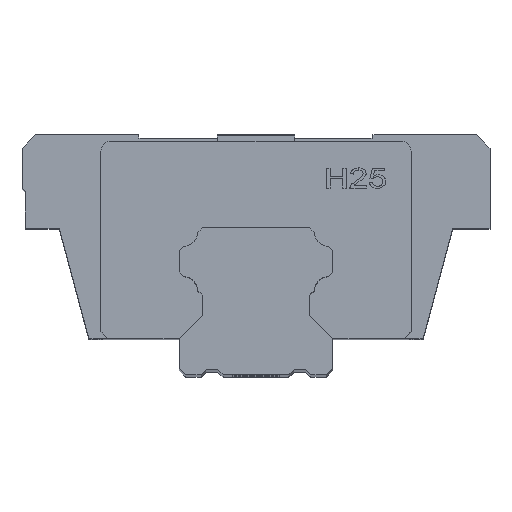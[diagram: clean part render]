
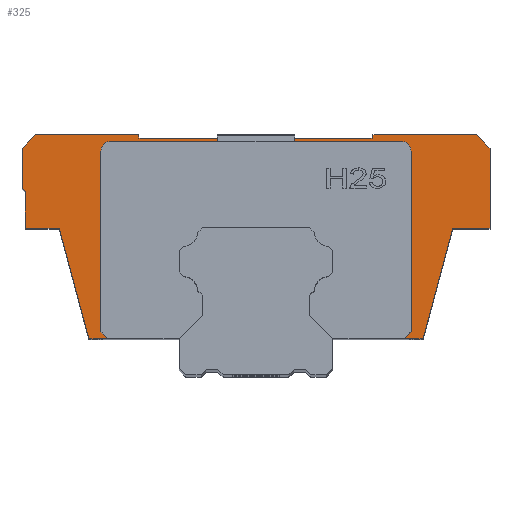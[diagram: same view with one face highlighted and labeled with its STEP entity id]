
A CAD part, top view. The second image highlights one B-rep face of the part: STEP entity #325.
In plain terms, the highlighted planar face has unit normal (0, 0, 1).
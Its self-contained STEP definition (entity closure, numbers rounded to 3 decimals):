
#166=FACE_OUTER_BOUND('',#1494,.T.);
#325=ADVANCED_FACE('',(#166),#505,.T.);
#505=PLANE('',#3679);
#639=CIRCLE('',#3675,1.5);
#640=CIRCLE('',#3678,1.5);
#726=LINE('',#5053,#1082);
#734=LINE('',#5073,#1090);
#736=LINE('',#5077,#1092);
#740=LINE('',#5087,#1096);
#744=LINE('',#5095,#1100);
#745=LINE('',#5097,#1101);
#746=LINE('',#5100,#1102);
#747=LINE('',#5102,#1103);
#748=LINE('',#5104,#1104);
#749=LINE('',#5106,#1105);
#750=LINE('',#5108,#1106);
#751=LINE('',#5109,#1107);
#752=LINE('',#5111,#1108);
#753=LINE('',#5113,#1109);
#754=LINE('',#5116,#1110);
#755=LINE('',#5118,#1111);
#756=LINE('',#5120,#1112);
#757=LINE('',#5122,#1113);
#758=LINE('',#5124,#1114);
#759=LINE('',#5126,#1115);
#760=LINE('',#5128,#1116);
#761=LINE('',#5130,#1117);
#762=LINE('',#5132,#1118);
#763=LINE('',#5134,#1119);
#764=LINE('',#5136,#1120);
#765=LINE('',#5138,#1121);
#766=LINE('',#5140,#1122);
#767=LINE('',#5142,#1123);
#768=LINE('',#5144,#1124);
#769=LINE('',#5146,#1125);
#1082=VECTOR('',#3963,1.);
#1090=VECTOR('',#3977,1.);
#1092=VECTOR('',#3981,1.);
#1096=VECTOR('',#3991,1.);
#1100=VECTOR('',#3995,1.);
#1101=VECTOR('',#3998,1.);
#1102=VECTOR('',#3999,1.);
#1103=VECTOR('',#4000,1.);
#1104=VECTOR('',#4001,1.);
#1105=VECTOR('',#4002,1.);
#1106=VECTOR('',#4003,1.);
#1107=VECTOR('',#4004,1.);
#1108=VECTOR('',#4005,1.);
#1109=VECTOR('',#4006,1.);
#1110=VECTOR('',#4009,1.);
#1111=VECTOR('',#4010,1.);
#1112=VECTOR('',#4011,1.);
#1113=VECTOR('',#4012,1.);
#1114=VECTOR('',#4013,1.);
#1115=VECTOR('',#4014,1.);
#1116=VECTOR('',#4015,1.);
#1117=VECTOR('',#4016,1.);
#1118=VECTOR('',#4017,1.);
#1119=VECTOR('',#4018,1.);
#1120=VECTOR('',#4019,1.);
#1121=VECTOR('',#4020,1.);
#1122=VECTOR('',#4021,1.);
#1123=VECTOR('',#4022,1.);
#1124=VECTOR('',#4023,1.);
#1125=VECTOR('',#4024,1.);
#1494=EDGE_LOOP('',(#1836,#1837,#1838,#1839,#1840,#1841,#1842,#1843,#1844,
#1845,#1846,#1847,#1848,#1849,#1850,#1851,#1852,#1853,#1854,#1855,#1856,
#1857,#1858,#1859,#1860,#1861,#1862,#1863,#1864,#1865,#1866,#1867));
#1836=ORIENTED_EDGE('',*,*,#3157,.T.);
#1837=ORIENTED_EDGE('',*,*,#3158,.F.);
#1838=ORIENTED_EDGE('',*,*,#3159,.T.);
#1839=ORIENTED_EDGE('',*,*,#3160,.T.);
#1840=ORIENTED_EDGE('',*,*,#3161,.T.);
#1841=ORIENTED_EDGE('',*,*,#3162,.T.);
#1842=ORIENTED_EDGE('',*,*,#3135,.F.);
#1843=ORIENTED_EDGE('',*,*,#3145,.T.);
#1844=ORIENTED_EDGE('',*,*,#3147,.T.);
#1845=ORIENTED_EDGE('',*,*,#3149,.T.);
#1846=ORIENTED_EDGE('',*,*,#3156,.T.);
#1847=ORIENTED_EDGE('',*,*,#3163,.T.);
#1848=ORIENTED_EDGE('',*,*,#3164,.T.);
#1849=ORIENTED_EDGE('',*,*,#3165,.T.);
#1850=ORIENTED_EDGE('',*,*,#3152,.T.);
#1851=ORIENTED_EDGE('',*,*,#3166,.T.);
#1852=ORIENTED_EDGE('',*,*,#3167,.T.);
#1853=ORIENTED_EDGE('',*,*,#3168,.T.);
#1854=ORIENTED_EDGE('',*,*,#3169,.F.);
#1855=ORIENTED_EDGE('',*,*,#3170,.T.);
#1856=ORIENTED_EDGE('',*,*,#3171,.T.);
#1857=ORIENTED_EDGE('',*,*,#3172,.F.);
#1858=ORIENTED_EDGE('',*,*,#3173,.T.);
#1859=ORIENTED_EDGE('',*,*,#3174,.F.);
#1860=ORIENTED_EDGE('',*,*,#3175,.T.);
#1861=ORIENTED_EDGE('',*,*,#3176,.T.);
#1862=ORIENTED_EDGE('',*,*,#3177,.F.);
#1863=ORIENTED_EDGE('',*,*,#3178,.F.);
#1864=ORIENTED_EDGE('',*,*,#3179,.T.);
#1865=ORIENTED_EDGE('',*,*,#3180,.T.);
#1866=ORIENTED_EDGE('',*,*,#3181,.F.);
#1867=ORIENTED_EDGE('',*,*,#3182,.F.);
#2780=VERTEX_POINT('',#5054);
#2781=VERTEX_POINT('',#5055);
#2789=VERTEX_POINT('',#5074);
#2790=VERTEX_POINT('',#5078);
#2791=VERTEX_POINT('',#5082);
#2792=VERTEX_POINT('',#5086);
#2793=VERTEX_POINT('',#5088);
#2796=VERTEX_POINT('',#5094);
#2797=VERTEX_POINT('',#5098);
#2798=VERTEX_POINT('',#5099);
#2799=VERTEX_POINT('',#5101);
#2800=VERTEX_POINT('',#5103);
#2801=VERTEX_POINT('',#5105);
#2802=VERTEX_POINT('',#5107);
#2803=VERTEX_POINT('',#5110);
#2804=VERTEX_POINT('',#5112);
#2805=VERTEX_POINT('',#5115);
#2806=VERTEX_POINT('',#5117);
#2807=VERTEX_POINT('',#5119);
#2808=VERTEX_POINT('',#5121);
#2809=VERTEX_POINT('',#5123);
#2810=VERTEX_POINT('',#5125);
#2811=VERTEX_POINT('',#5127);
#2812=VERTEX_POINT('',#5129);
#2813=VERTEX_POINT('',#5131);
#2814=VERTEX_POINT('',#5133);
#2815=VERTEX_POINT('',#5135);
#2816=VERTEX_POINT('',#5137);
#2817=VERTEX_POINT('',#5139);
#2818=VERTEX_POINT('',#5141);
#2819=VERTEX_POINT('',#5143);
#2820=VERTEX_POINT('',#5145);
#3135=EDGE_CURVE('',#2780,#2781,#726,.T.);
#3145=EDGE_CURVE('',#2780,#2789,#734,.T.);
#3147=EDGE_CURVE('',#2789,#2790,#736,.T.);
#3149=EDGE_CURVE('',#2790,#2791,#639,.T.);
#3152=EDGE_CURVE('',#2793,#2792,#740,.T.);
#3156=EDGE_CURVE('',#2791,#2796,#744,.T.);
#3157=EDGE_CURVE('',#2797,#2798,#745,.T.);
#3158=EDGE_CURVE('',#2799,#2798,#746,.T.);
#3159=EDGE_CURVE('',#2799,#2800,#747,.T.);
#3160=EDGE_CURVE('',#2800,#2801,#748,.T.);
#3161=EDGE_CURVE('',#2801,#2802,#749,.T.);
#3162=EDGE_CURVE('',#2802,#2781,#750,.T.);
#3163=EDGE_CURVE('',#2796,#2803,#751,.T.);
#3164=EDGE_CURVE('',#2803,#2804,#752,.T.);
#3165=EDGE_CURVE('',#2804,#2793,#753,.T.);
#3166=EDGE_CURVE('',#2792,#2805,#640,.T.);
#3167=EDGE_CURVE('',#2805,#2806,#754,.T.);
#3168=EDGE_CURVE('',#2806,#2807,#755,.T.);
#3169=EDGE_CURVE('',#2808,#2807,#756,.T.);
#3170=EDGE_CURVE('',#2808,#2809,#757,.T.);
#3171=EDGE_CURVE('',#2809,#2810,#758,.T.);
#3172=EDGE_CURVE('',#2811,#2810,#759,.T.);
#3173=EDGE_CURVE('',#2811,#2812,#760,.T.);
#3174=EDGE_CURVE('',#2813,#2812,#761,.T.);
#3175=EDGE_CURVE('',#2813,#2814,#762,.T.);
#3176=EDGE_CURVE('',#2814,#2815,#763,.T.);
#3177=EDGE_CURVE('',#2816,#2815,#764,.T.);
#3178=EDGE_CURVE('',#2817,#2816,#765,.T.);
#3179=EDGE_CURVE('',#2817,#2818,#766,.T.);
#3180=EDGE_CURVE('',#2818,#2819,#767,.T.);
#3181=EDGE_CURVE('',#2820,#2819,#768,.T.);
#3182=EDGE_CURVE('',#2797,#2820,#769,.T.);
#3675=AXIS2_PLACEMENT_3D('',#5081,#3985,#3986);
#3678=AXIS2_PLACEMENT_3D('',#5114,#4007,#4008);
#3679=AXIS2_PLACEMENT_3D('',#5147,#4025,#4026);
#3963=DIRECTION('',(-1.,0.,0.));
#3977=DIRECTION('',(-0.707,0.707,0.));
#3981=DIRECTION('',(0.,1.,0.));
#3985=DIRECTION('',(0.,0.,-1.));
#3986=DIRECTION('',(-1.,0.,0.));
#3991=DIRECTION('',(1.,0.,0.));
#3995=DIRECTION('',(1.,0.,0.));
#3998=DIRECTION('',(-0.707,-0.707,0.));
#3999=DIRECTION('',(0.,1.,0.));
#4000=DIRECTION('',(0.707,-0.707,0.));
#4001=DIRECTION('',(0.,-1.,0.));
#4002=DIRECTION('',(1.,0.,0.));
#4003=DIRECTION('',(0.259,-0.966,0.));
#4004=DIRECTION('',(0.,1.,0.));
#4005=DIRECTION('',(1.,0.,0.));
#4006=DIRECTION('',(0.,-1.,0.));
#4007=DIRECTION('',(0.,0.,-1.));
#4008=DIRECTION('',(0.,1.,0.));
#4009=DIRECTION('',(0.,-1.,0.));
#4010=DIRECTION('',(-0.707,-0.707,0.));
#4011=DIRECTION('',(-1.,0.,0.));
#4012=DIRECTION('',(0.259,0.966,0.));
#4013=DIRECTION('',(1.,0.,0.));
#4014=DIRECTION('',(0.,-1.,0.));
#4015=DIRECTION('',(-0.707,0.707,0.));
#4016=DIRECTION('',(1.,0.,0.));
#4017=DIRECTION('',(0.,-1.,0.));
#4018=DIRECTION('',(-1.,0.,0.));
#4019=DIRECTION('',(0.,-1.,0.));
#4020=DIRECTION('',(1.,0.,0.));
#4021=DIRECTION('',(0.,-1.,0.));
#4022=DIRECTION('',(-1.,0.,0.));
#4023=DIRECTION('',(0.,-1.,0.));
#4024=DIRECTION('',(1.,0.,0.));
#4025=DIRECTION('',(0.,0.,1.));
#4026=DIRECTION('',(-1.,0.,0.));
#5053=CARTESIAN_POINT('',(-22.2,5.5,-44.));
#5054=CARTESIAN_POINT('',(-22.2,5.5,-44.));
#5055=CARTESIAN_POINT('',(-25.,5.5,-44.));
#5073=CARTESIAN_POINT('',(-22.2,5.5,-44.));
#5074=CARTESIAN_POINT('',(-23.2,6.5,-44.));
#5077=CARTESIAN_POINT('',(-23.2,6.5,-44.));
#5078=CARTESIAN_POINT('',(-23.2,33.5,-44.));
#5081=CARTESIAN_POINT('',(-21.7,33.5,-44.));
#5082=CARTESIAN_POINT('',(-21.7,35.,-44.));
#5086=CARTESIAN_POINT('',(21.7,35.,-44.));
#5087=CARTESIAN_POINT('',(5.8,35.,-44.));
#5088=CARTESIAN_POINT('',(5.8,35.,-44.));
#5094=CARTESIAN_POINT('',(-5.8,35.,-44.));
#5095=CARTESIAN_POINT('',(-21.7,35.,-44.));
#5097=CARTESIAN_POINT('',(-33.,36.,-44.));
#5098=CARTESIAN_POINT('',(-33.,36.,-44.));
#5099=CARTESIAN_POINT('',(-35.,34.,-44.));
#5100=CARTESIAN_POINT('',(-35.,28.,-44.));
#5101=CARTESIAN_POINT('',(-35.,28.,-44.));
#5102=CARTESIAN_POINT('',(-35.,28.,-44.));
#5103=CARTESIAN_POINT('',(-34.5,27.5,-44.));
#5104=CARTESIAN_POINT('',(-34.5,27.5,-44.));
#5105=CARTESIAN_POINT('',(-34.5,22.,-44.));
#5106=CARTESIAN_POINT('',(-34.5,22.,-44.));
#5107=CARTESIAN_POINT('',(-29.421,22.,-44.));
#5108=CARTESIAN_POINT('',(-29.421,22.,-44.));
#5109=CARTESIAN_POINT('',(-5.8,35.,-44.));
#5110=CARTESIAN_POINT('',(-5.8,35.8,-44.));
#5111=CARTESIAN_POINT('',(-5.8,35.8,-44.));
#5112=CARTESIAN_POINT('',(5.8,35.8,-44.));
#5113=CARTESIAN_POINT('',(5.8,35.8,-44.));
#5114=CARTESIAN_POINT('',(21.7,33.5,-44.));
#5115=CARTESIAN_POINT('',(23.2,33.5,-44.));
#5116=CARTESIAN_POINT('',(23.2,33.5,-44.));
#5117=CARTESIAN_POINT('',(23.2,6.5,-44.));
#5118=CARTESIAN_POINT('',(23.2,6.5,-44.));
#5119=CARTESIAN_POINT('',(22.2,5.5,-44.));
#5120=CARTESIAN_POINT('',(25.,5.5,-44.));
#5121=CARTESIAN_POINT('',(25.,5.5,-44.));
#5122=CARTESIAN_POINT('',(25.,5.5,-44.));
#5123=CARTESIAN_POINT('',(29.421,22.,-44.));
#5124=CARTESIAN_POINT('',(29.421,22.,-44.));
#5125=CARTESIAN_POINT('',(35.,22.,-44.));
#5126=CARTESIAN_POINT('',(35.,34.,-44.));
#5127=CARTESIAN_POINT('',(35.,34.,-44.));
#5128=CARTESIAN_POINT('',(35.,34.,-44.));
#5129=CARTESIAN_POINT('',(33.,36.,-44.));
#5130=CARTESIAN_POINT('',(17.5,36.,-44.));
#5131=CARTESIAN_POINT('',(17.5,36.,-44.));
#5132=CARTESIAN_POINT('',(17.5,36.,-44.));
#5133=CARTESIAN_POINT('',(17.5,35.5,-44.));
#5134=CARTESIAN_POINT('',(17.5,35.5,-44.));
#5135=CARTESIAN_POINT('',(5.833,35.5,-44.));
#5136=CARTESIAN_POINT('',(5.833,36.,-44.));
#5137=CARTESIAN_POINT('',(5.833,36.,-44.));
#5138=CARTESIAN_POINT('',(-5.833,36.,-44.));
#5139=CARTESIAN_POINT('',(-5.833,36.,-44.));
#5140=CARTESIAN_POINT('',(-5.833,36.,-44.));
#5141=CARTESIAN_POINT('',(-5.833,35.5,-44.));
#5142=CARTESIAN_POINT('',(-5.833,35.5,-44.));
#5143=CARTESIAN_POINT('',(-17.5,35.5,-44.));
#5144=CARTESIAN_POINT('',(-17.5,36.,-44.));
#5145=CARTESIAN_POINT('',(-17.5,36.,-44.));
#5146=CARTESIAN_POINT('',(-33.,36.,-44.));
#5147=CARTESIAN_POINT('',(-38.5,3.975,-44.));
